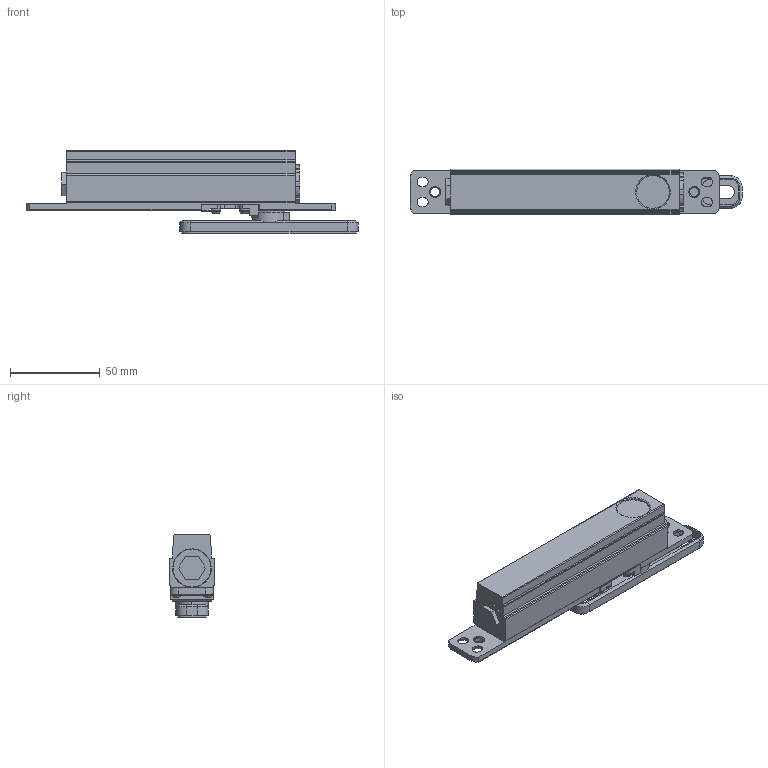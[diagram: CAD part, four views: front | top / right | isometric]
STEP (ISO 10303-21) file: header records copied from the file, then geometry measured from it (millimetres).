
FILE_DESCRIPTION(/* description */ (''),/* implementation_level */ '2;1');
FILE_NAME(/* name */ 'Stealthpivot-NL-step',/* time_stamp */ '2024-06-14T14:18:37+02:00',/* author */ (''),/* organization */ (''),/* preprocessor_version */ 'ST-DEVELOPER v16.5',/* originating_system */ '',/* authorisation */ '');
FILE_SCHEMA (('AUTOMOTIVE_DESIGN'));
Length unit declared in the file: millimetre
Products named in the file (1): Document
Bounding box: 184.5 x 25.25 x 45.75 mm (x, y, z)
Volume: 110873 mm3; surface area: 25962.3 mm2
Topology: 2 solids, 2 shells, 345 faces, 940 edges, 591 vertices
Faces by surface type: bspline 185, plane 160
Entity records: 10713 total; most frequent: CARTESIAN_POINT 5256, ORIENTED_EDGE 1864, EDGE_CURVE 932, VERTEX_POINT 591, B_SPLINE_CURVE_WITH_KNOTS 449, EDGE_LOOP 375, ADVANCED_FACE 345, FACE_OUTER_BOUND 345
